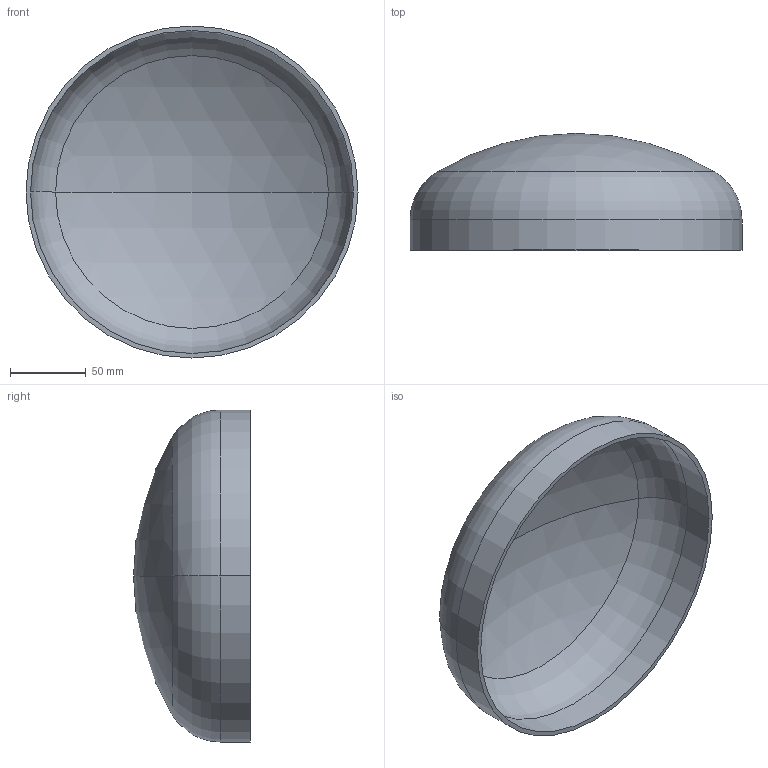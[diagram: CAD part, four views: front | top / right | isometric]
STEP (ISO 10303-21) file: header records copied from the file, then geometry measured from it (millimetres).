
FILE_DESCRIPTION (( 'STEP AP203' ), '1' );
FILE_NAME ('DIN 28013 Korbbogenform_-_Boden DIN 28013 - 219,1 x 20 - I - s=3.step', '2016-07-01T07:42:09', ( '' ), ( '' ), 'SwSTEP 2.0', 'SolidWorks 2013', '' );
FILE_SCHEMA (( 'CONFIG_CONTROL_DESIGN' ));
Length unit declared in the file: millimetre
Products named in the file (1): DIN 28013 Korbbogenform_-_Boden DIN 28013 - 219,1 x 20 - I - s=3
Bounding box: 219.1 x 77.1 x 219.1 mm (x, y, z)
Volume: 194833.2 mm3; surface area: 131944.3 mm2
Topology: 1 solids, 1 shells, 13 faces, 24 edges, 14 vertices
Faces by surface type: torus 4, cylinder 4, sphere 4, plane 1
Entity records: 407 total; most frequent: DIRECTION 72, CARTESIAN_POINT 52, ORIENTED_EDGE 48, AXIS2_PLACEMENT_3D 34, EDGE_CURVE 24, CIRCLE 20, VERTEX_POINT 14, EDGE_LOOP 14
